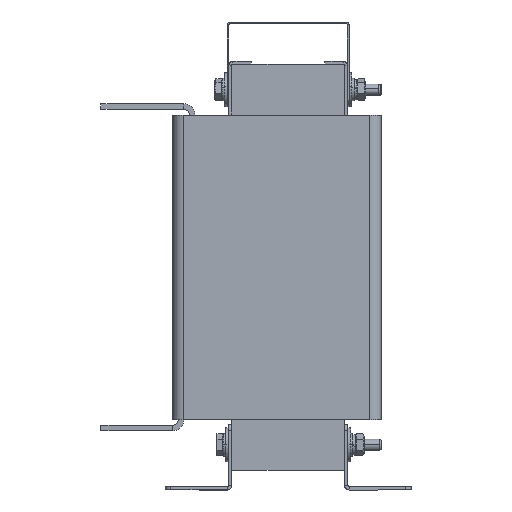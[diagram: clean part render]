
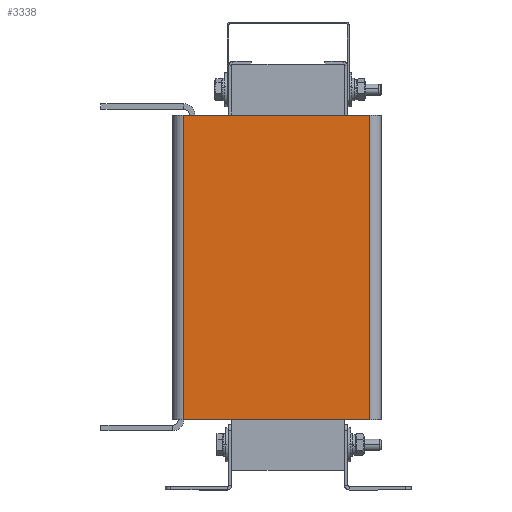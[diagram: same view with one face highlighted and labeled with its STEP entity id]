
A CAD part, left-side view. The second image highlights one B-rep face of the part: STEP entity #3338.
In plain terms, the highlighted planar face has unit normal (-1, 0, 0).
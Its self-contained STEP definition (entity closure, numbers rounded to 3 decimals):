
#157 = VERTEX_POINT ( 'NONE', #2622 ) ;
#530 = LINE ( 'NONE', #2781, #9133 ) ;
#597 = ORIENTED_EDGE ( 'NONE', *, *, #1186, .F. ) ;
#598 = CARTESIAN_POINT ( 'NONE',  ( -53., 102.5, -270. ) ) ;
#634 = DIRECTION ( 'NONE',  ( 0., 0., -1. ) ) ;
#645 = EDGE_CURVE ( 'NONE', #4926, #5115, #9605, .T. ) ;
#804 = VERTEX_POINT ( 'NONE', #6161 ) ;
#879 = EDGE_CURVE ( 'NONE', #804, #4926, #2997, .T. ) ;
#1022 = EDGE_LOOP ( 'NONE', ( #4410, #1182, #597, #5473 ) ) ;
#1046 = DIRECTION ( 'NONE',  ( 0., -1., 0. ) ) ;
#1182 = ORIENTED_EDGE ( 'NONE', *, *, #645, .T. ) ;
#1186 = EDGE_CURVE ( 'NONE', #157, #5115, #1819, .T. ) ;
#1465 = VECTOR ( 'NONE', #4268, 1000. ) ;
#1819 = LINE ( 'NONE', #9010, #4372 ) ;
#2622 = CARTESIAN_POINT ( 'NONE',  ( -53., 92.5, 0. ) ) ;
#2781 = CARTESIAN_POINT ( 'NONE',  ( -53., 92.5, -270. ) ) ;
#2792 = CARTESIAN_POINT ( 'NONE',  ( -53., -72.5, 0. ) ) ;
#2997 = LINE ( 'NONE', #598, #4207 ) ;
#3140 = DIRECTION ( 'NONE',  ( 0., -1., 0. ) ) ;
#3338 = ADVANCED_FACE ( 'NONE', ( #5466 ), #8628, .T. ) ;
#3586 = CARTESIAN_POINT ( 'NONE',  ( -53., -72.5, -270. ) ) ;
#3735 = AXIS2_PLACEMENT_3D ( 'NONE', #3930, #7070, #3140 ) ;
#3930 = CARTESIAN_POINT ( 'NONE',  ( -53., 102.5, -270. ) ) ;
#4207 = VECTOR ( 'NONE', #4416, 1000. ) ;
#4268 = DIRECTION ( 'NONE',  ( 0., 0., 1. ) ) ;
#4372 = VECTOR ( 'NONE', #1046, 1000. ) ;
#4410 = ORIENTED_EDGE ( 'NONE', *, *, #879, .T. ) ;
#4416 = DIRECTION ( 'NONE',  ( 0., -1., 0. ) ) ;
#4926 = VERTEX_POINT ( 'NONE', #9121 ) ;
#5115 = VERTEX_POINT ( 'NONE', #2792 ) ;
#5466 = FACE_OUTER_BOUND ( 'NONE', #1022, .T. ) ;
#5473 = ORIENTED_EDGE ( 'NONE', *, *, #10127, .T. ) ;
#6161 = CARTESIAN_POINT ( 'NONE',  ( -53., 92.5, -270. ) ) ;
#7070 = DIRECTION ( 'NONE',  ( -1., 0., 0. ) ) ;
#8628 = PLANE ( 'NONE',  #3735 ) ;
#9010 = CARTESIAN_POINT ( 'NONE',  ( -53., 102.5, 0. ) ) ;
#9121 = CARTESIAN_POINT ( 'NONE',  ( -53., -72.5, -270. ) ) ;
#9133 = VECTOR ( 'NONE', #634, 1000. ) ;
#9605 = LINE ( 'NONE', #3586, #1465 ) ;
#10127 = EDGE_CURVE ( 'NONE', #157, #804, #530, .T. ) ;
